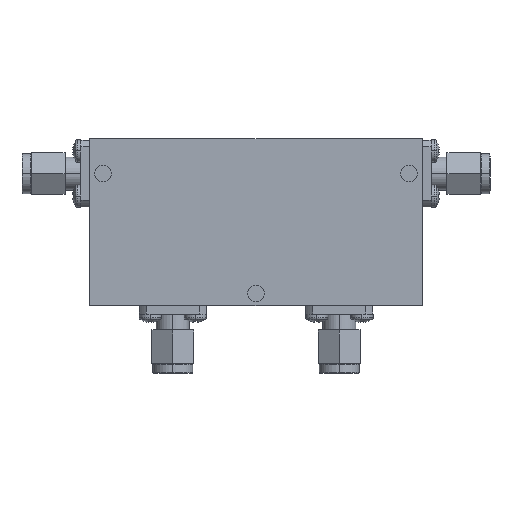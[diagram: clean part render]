
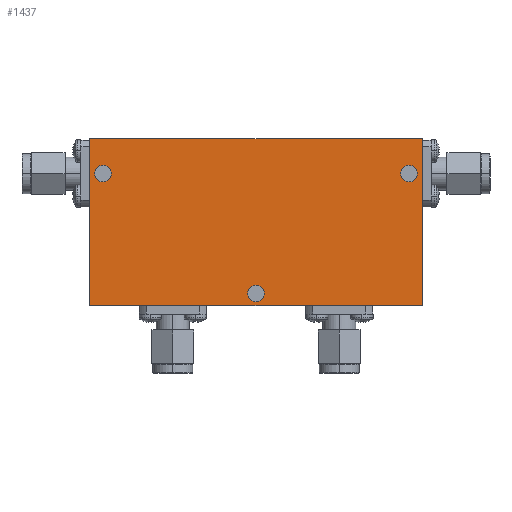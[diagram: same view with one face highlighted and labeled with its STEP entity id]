
A CAD part, top view. The second image highlights one B-rep face of the part: STEP entity #1437.
In plain terms, the highlighted planar face has unit normal (0, 0, 1).
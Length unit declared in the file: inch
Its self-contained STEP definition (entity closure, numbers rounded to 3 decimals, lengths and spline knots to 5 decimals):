
#5 = VERTEX_POINT ( 'NONE', #1407 ) ;
#32 = VERTEX_POINT ( 'NONE', #131 ) ;
#131 = CARTESIAN_POINT ( 'NONE',  ( -0.0625, -0.535, 0.365 ) ) ;
#133 = CIRCLE ( 'NONE', #1199, 0.0625 ) ;
#142 = CARTESIAN_POINT ( 'NONE',  ( -1.15, 0.365, 0.365 ) ) ;
#151 = CARTESIAN_POINT ( 'NONE',  ( 1.25, -0.625, 0.365 ) ) ;
#155 = VERTEX_POINT ( 'NONE', #3019 ) ;
#295 = CIRCLE ( 'NONE', #2821, 0.0625 ) ;
#349 = ORIENTED_EDGE ( 'NONE', *, *, #2362, .F. ) ;
#385 = DIRECTION ( 'NONE',  ( 0., 0., 1. ) ) ;
#410 = EDGE_CURVE ( 'NONE', #1973, #2185, #3034, .T. ) ;
#484 = LINE ( 'NONE', #2953, #1389 ) ;
#559 = EDGE_CURVE ( 'NONE', #5, #2132, #3110, .T. ) ;
#561 = EDGE_LOOP ( 'NONE', ( #903, #2231 ) ) ;
#597 = CARTESIAN_POINT ( 'NONE',  ( -1.15, 0.365, 0.365 ) ) ;
#635 = DIRECTION ( 'NONE',  ( 1., 0., 0. ) ) ;
#718 = VECTOR ( 'NONE', #802, 39.37008 ) ;
#738 = DIRECTION ( 'NONE',  ( 1., 0., 0. ) ) ;
#777 = DIRECTION ( 'NONE',  ( 0., 0., 1. ) ) ;
#796 = DIRECTION ( 'NONE',  ( 0., 0., 1. ) ) ;
#802 = DIRECTION ( 'NONE',  ( 0., 1., 0. ) ) ;
#816 = ORIENTED_EDGE ( 'NONE', *, *, #2271, .F. ) ;
#895 = VERTEX_POINT ( 'NONE', #1712 ) ;
#903 = ORIENTED_EDGE ( 'NONE', *, *, #559, .F. ) ;
#968 = CARTESIAN_POINT ( 'NONE',  ( -1.25, 0.625, 0.365 ) ) ;
#1064 = DIRECTION ( 'NONE',  ( 1., 0., 0. ) ) ;
#1079 = AXIS2_PLACEMENT_3D ( 'NONE', #2637, #2899, #1888 ) ;
#1102 = DIRECTION ( 'NONE',  ( 1., 0., 0. ) ) ;
#1199 = AXIS2_PLACEMENT_3D ( 'NONE', #2179, #777, #2606 ) ;
#1249 = VECTOR ( 'NONE', #2307, 39.37008 ) ;
#1288 = CARTESIAN_POINT ( 'NONE',  ( 0.0625, -0.535, 0.365 ) ) ;
#1389 = VECTOR ( 'NONE', #2427, 39.37008 ) ;
#1407 = CARTESIAN_POINT ( 'NONE',  ( -1.0875, 0.365, 0.365 ) ) ;
#1431 = AXIS2_PLACEMENT_3D ( 'NONE', #3223, #2677, #1102 ) ;
#1437 = ADVANCED_FACE ( 'NONE', ( #2033, #2493, #3150, #1993 ), #2647, .T. ) ;
#1500 = VECTOR ( 'NONE', #738, 39.37008 ) ;
#1572 = CIRCLE ( 'NONE', #2332, 0.0625 ) ;
#1586 = CARTESIAN_POINT ( 'NONE',  ( 0., -0.535, 0.365 ) ) ;
#1611 = CARTESIAN_POINT ( 'NONE',  ( -1.25, -0.625, 0.365 ) ) ;
#1643 = ORIENTED_EDGE ( 'NONE', *, *, #2621, .F. ) ;
#1660 = EDGE_CURVE ( 'NONE', #2185, #895, #1954, .T. ) ;
#1674 = ORIENTED_EDGE ( 'NONE', *, *, #2730, .T. ) ;
#1676 = EDGE_CURVE ( 'NONE', #2842, #1973, #2204, .T. ) ;
#1686 = AXIS2_PLACEMENT_3D ( 'NONE', #142, #385, #635 ) ;
#1712 = CARTESIAN_POINT ( 'NONE',  ( -1.25, 0.625, 0.365 ) ) ;
#1722 = VERTEX_POINT ( 'NONE', #1288 ) ;
#1743 = CARTESIAN_POINT ( 'NONE',  ( -1.2125, 0.365, 0.365 ) ) ;
#1756 = CARTESIAN_POINT ( 'NONE',  ( -1.25, -0.625, 0.365 ) ) ;
#1801 = ORIENTED_EDGE ( 'NONE', *, *, #410, .T. ) ;
#1888 = DIRECTION ( 'NONE',  ( 1., 0., 0. ) ) ;
#1923 = CIRCLE ( 'NONE', #1431, 0.0625 ) ;
#1954 = LINE ( 'NONE', #968, #1249 ) ;
#1973 = VERTEX_POINT ( 'NONE', #151 ) ;
#1984 = VERTEX_POINT ( 'NONE', #2749 ) ;
#1993 = FACE_OUTER_BOUND ( 'NONE', #2629, .T. ) ;
#2027 = EDGE_CURVE ( 'NONE', #32, #1722, #1572, .T. ) ;
#2033 = FACE_BOUND ( 'NONE', #3182, .T. ) ;
#2079 = CARTESIAN_POINT ( 'NONE',  ( 1.25, 0.625, 0.365 ) ) ;
#2100 = ORIENTED_EDGE ( 'NONE', *, *, #1676, .T. ) ;
#2132 = VERTEX_POINT ( 'NONE', #1743 ) ;
#2153 = DIRECTION ( 'NONE',  ( 0., 0., 1. ) ) ;
#2179 = CARTESIAN_POINT ( 'NONE',  ( 1.15, 0.365, 0.365 ) ) ;
#2185 = VERTEX_POINT ( 'NONE', #2651 ) ;
#2204 = LINE ( 'NONE', #1756, #1500 ) ;
#2231 = ORIENTED_EDGE ( 'NONE', *, *, #2934, .F. ) ;
#2271 = EDGE_CURVE ( 'NONE', #1984, #155, #133, .T. ) ;
#2304 = EDGE_LOOP ( 'NONE', ( #1643, #3341 ) ) ;
#2307 = DIRECTION ( 'NONE',  ( -1., 0., 0. ) ) ;
#2332 = AXIS2_PLACEMENT_3D ( 'NONE', #2715, #2989, #3248 ) ;
#2362 = EDGE_CURVE ( 'NONE', #155, #1984, #1923, .T. ) ;
#2427 = DIRECTION ( 'NONE',  ( 0., -1., 0. ) ) ;
#2493 = FACE_BOUND ( 'NONE', #2304, .T. ) ;
#2606 = DIRECTION ( 'NONE',  ( 1., 0., 0. ) ) ;
#2621 = EDGE_CURVE ( 'NONE', #1722, #32, #295, .T. ) ;
#2629 = EDGE_LOOP ( 'NONE', ( #1801, #3092, #1674, #2100 ) ) ;
#2637 = CARTESIAN_POINT ( 'NONE',  ( 0., 0., 0.365 ) ) ;
#2647 = PLANE ( 'NONE',  #1079 ) ;
#2651 = CARTESIAN_POINT ( 'NONE',  ( 1.25, 0.625, 0.365 ) ) ;
#2677 = DIRECTION ( 'NONE',  ( 0., 0., 1. ) ) ;
#2697 = DIRECTION ( 'NONE',  ( 1., 0., 0. ) ) ;
#2715 = CARTESIAN_POINT ( 'NONE',  ( 0., -0.535, 0.365 ) ) ;
#2730 = EDGE_CURVE ( 'NONE', #895, #2842, #484, .T. ) ;
#2749 = CARTESIAN_POINT ( 'NONE',  ( 1.2125, 0.365, 0.365 ) ) ;
#2821 = AXIS2_PLACEMENT_3D ( 'NONE', #1586, #796, #1064 ) ;
#2842 = VERTEX_POINT ( 'NONE', #1611 ) ;
#2899 = DIRECTION ( 'NONE',  ( 0., 0., 1. ) ) ;
#2934 = EDGE_CURVE ( 'NONE', #2132, #5, #3040, .T. ) ;
#2953 = CARTESIAN_POINT ( 'NONE',  ( -1.25, 0.625, 0.365 ) ) ;
#2989 = DIRECTION ( 'NONE',  ( 0., 0., 1. ) ) ;
#3019 = CARTESIAN_POINT ( 'NONE',  ( 1.0875, 0.365, 0.365 ) ) ;
#3034 = LINE ( 'NONE', #2079, #718 ) ;
#3040 = CIRCLE ( 'NONE', #1686, 0.0625 ) ;
#3052 = AXIS2_PLACEMENT_3D ( 'NONE', #597, #2153, #2697 ) ;
#3092 = ORIENTED_EDGE ( 'NONE', *, *, #1660, .T. ) ;
#3110 = CIRCLE ( 'NONE', #3052, 0.0625 ) ;
#3150 = FACE_BOUND ( 'NONE', #561, .T. ) ;
#3182 = EDGE_LOOP ( 'NONE', ( #816, #349 ) ) ;
#3223 = CARTESIAN_POINT ( 'NONE',  ( 1.15, 0.365, 0.365 ) ) ;
#3248 = DIRECTION ( 'NONE',  ( 1., 0., 0. ) ) ;
#3341 = ORIENTED_EDGE ( 'NONE', *, *, #2027, .F. ) ;
